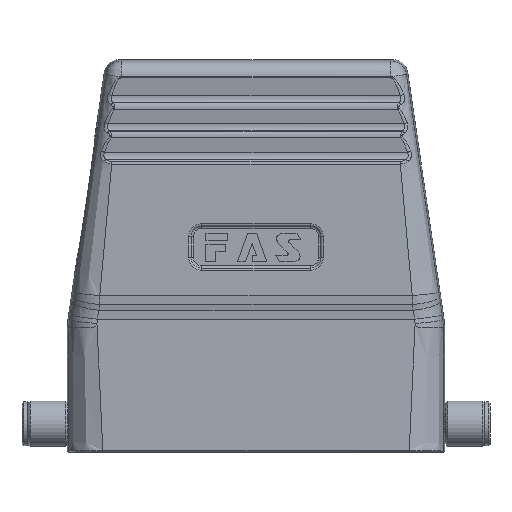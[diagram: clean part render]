
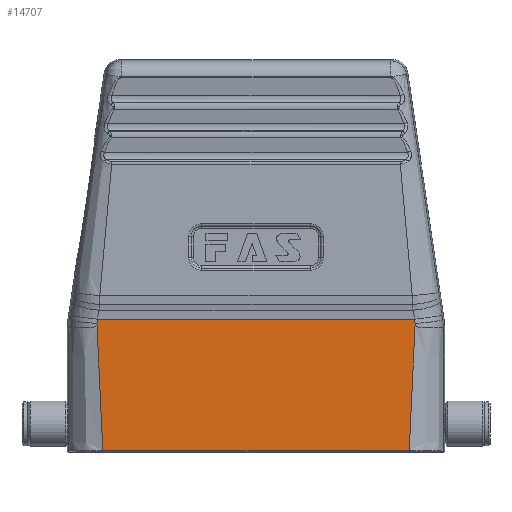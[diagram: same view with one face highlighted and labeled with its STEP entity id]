
A CAD part, top view. The second image highlights one B-rep face of the part: STEP entity #14707.
In plain terms, the highlighted planar face has unit normal (0, 0, 1).
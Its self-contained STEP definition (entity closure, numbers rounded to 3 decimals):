
#98 = CARTESIAN_POINT ( 'NONE',  ( 30.765, 51.846, 21.5 ) ) ;
#230 = FACE_OUTER_BOUND ( 'NONE', #4912, .T. ) ;
#684 = CARTESIAN_POINT ( 'NONE',  ( 30.366, 47.874, 21.5 ) ) ;
#744 = CARTESIAN_POINT ( 'NONE',  ( 30.779, 52.607, 21.5 ) ) ;
#876 = EDGE_CURVE ( 'NONE', #9287, #17643, #11985, .T. ) ;
#914 = CARTESIAN_POINT ( 'NONE',  ( 30.712, 53.234, 21.5 ) ) ;
#1014 = CARTESIAN_POINT ( 'NONE',  ( -29.839, 35.892, 21.5 ) ) ;
#1187 = CARTESIAN_POINT ( 'NONE',  ( 29.647, 27.898, 21.5 ) ) ;
#2148 = CARTESIAN_POINT ( 'NONE',  ( -30.765, 51.846, 21.5 ) ) ;
#2259 = PLANE ( 'NONE',  #20123 ) ;
#2491 = CARTESIAN_POINT ( 'NONE',  ( 29.647, 27.898, 21.5 ) ) ;
#2836 = CARTESIAN_POINT ( 'NONE',  ( -30.783, 52.517, 21.5 ) ) ;
#2842 = EDGE_CURVE ( 'NONE', #25320, #16825, #6450, .T. ) ;
#2975 = CARTESIAN_POINT ( 'NONE',  ( -30.142, 43.881, 21.5 ) ) ;
#3156 = EDGE_CURVE ( 'NONE', #8584, #9287, #8384, .T. ) ;
#3163 = CARTESIAN_POINT ( 'NONE',  ( 9.882, 27.898, 21.5 ) ) ;
#3537 = VERTEX_POINT ( 'NONE', #10385 ) ;
#3786 = CARTESIAN_POINT ( 'NONE',  ( 30.79, 52.292, 21.5 ) ) ;
#4230 = CARTESIAN_POINT ( 'NONE',  ( -30.702, 53.323, 21.5 ) ) ;
#4786 = CARTESIAN_POINT ( 'NONE',  ( -30.734, 53.055, 21.5 ) ) ;
#4912 = EDGE_LOOP ( 'NONE', ( #25142, #8812, #15916, #9839, #23778, #5516, #23771, #7599 ) ) ;
#5079 = DIRECTION ( 'NONE',  ( 1., 0., 0. ) ) ;
#5103 = CARTESIAN_POINT ( 'NONE',  ( -9.882, 27.898, 21.5 ) ) ;
#5516 = ORIENTED_EDGE ( 'NONE', *, *, #19938, .F. ) ;
#5615 = EDGE_CURVE ( 'NONE', #13027, #8584, #14170, .T. ) ;
#5893 = CARTESIAN_POINT ( 'NONE',  ( 30.772, 51.92, 21.5 ) ) ;
#6231 = CARTESIAN_POINT ( 'NONE',  ( 29.839, 35.892, 21.5 ) ) ;
#6262 = CARTESIAN_POINT ( 'NONE',  ( -32.019, 27.39, 21.5 ) ) ;
#6405 = VECTOR ( 'NONE', #5079, 1000. ) ;
#6450 =( BOUNDED_CURVE ( )  B_SPLINE_CURVE ( 3, ( #15876, #19556, #3786, #11853, #5893, #98 ),
 .UNSPECIFIED., .F., .F. ) 
 B_SPLINE_CURVE_WITH_KNOTS ( ( 4, 1, 1, 4 ),
 ( 0., 0.334, 0.667, 1. ),
 .UNSPECIFIED. ) 
 CURVE ( )  GEOMETRIC_REPRESENTATION_ITEM ( )  RATIONAL_B_SPLINE_CURVE ( ( 1.17, 1.17, 1.17, 1.17, 1.17, 1.17 ) ) 
 REPRESENTATION_ITEM ( '' )  );
#6569 = CARTESIAN_POINT ( 'NONE',  ( -29.647, 27.898, 21.5 ) ) ;
#6589 = EDGE_CURVE ( 'NONE', #17643, #17551, #15625, .T. ) ;
#6626 = CARTESIAN_POINT ( 'NONE',  ( -30.772, 51.92, 21.5 ) ) ;
#6774 = CARTESIAN_POINT ( 'NONE',  ( -30.702, 53.323, 21.5 ) ) ;
#7599 = ORIENTED_EDGE ( 'NONE', *, *, #2842, .F. ) ;
#8384 =( BOUNDED_CURVE ( )  B_SPLINE_CURVE ( 3, ( #20360, #6626, #10505, #12811, #12558, #14699 ),
 .UNSPECIFIED., .F., .F. ) 
 B_SPLINE_CURVE_WITH_KNOTS ( ( 4, 1, 1, 4 ),
 ( 0., 0.333, 0.666, 1. ),
 .UNSPECIFIED. ) 
 CURVE ( )  GEOMETRIC_REPRESENTATION_ITEM ( )  RATIONAL_B_SPLINE_CURVE ( ( 1.17, 1.17, 1.17, 1.17, 1.17, 1.17 ) ) 
 REPRESENTATION_ITEM ( '' )  );
#8509 = CARTESIAN_POINT ( 'NONE',  ( 30.142, 43.881, 21.5 ) ) ;
#8584 = VERTEX_POINT ( 'NONE', #2148 ) ;
#8812 = ORIENTED_EDGE ( 'NONE', *, *, #6589, .F. ) ;
#9287 = VERTEX_POINT ( 'NONE', #10488 ) ;
#9719 = EDGE_CURVE ( 'NONE', #16825, #3537, #12962, .T. ) ;
#9839 = ORIENTED_EDGE ( 'NONE', *, *, #3156, .F. ) ;
#10385 = CARTESIAN_POINT ( 'NONE',  ( 29.647, 27.898, 21.5 ) ) ;
#10488 = CARTESIAN_POINT ( 'NONE',  ( -30.783, 52.517, 21.5 ) ) ;
#10505 = CARTESIAN_POINT ( 'NONE',  ( -30.784, 52.068, 21.5 ) ) ;
#10524 = CARTESIAN_POINT ( 'NONE',  ( 30.734, 53.055, 21.5 ) ) ;
#10619 = CARTESIAN_POINT ( 'NONE',  ( -30.366, 47.874, 21.5 ) ) ;
#10747 = CARTESIAN_POINT ( 'NONE',  ( -30.779, 52.607, 21.5 ) ) ;
#11853 = CARTESIAN_POINT ( 'NONE',  ( 30.784, 52.068, 21.5 ) ) ;
#11985 =( BOUNDED_CURVE ( )  B_SPLINE_CURVE ( 3, ( #2836, #10747, #20506, #4786, #18463, #6774 ),
 .UNSPECIFIED., .F., .F. ) 
 B_SPLINE_CURVE_WITH_KNOTS ( ( 4, 1, 1, 4 ),
 ( 0., 0.333, 0.666, 1. ),
 .UNSPECIFIED. ) 
 CURVE ( )  GEOMETRIC_REPRESENTATION_ITEM ( )  RATIONAL_B_SPLINE_CURVE ( ( 1.17, 1.17, 1.17, 1.17, 1.17, 1.17 ) ) 
 REPRESENTATION_ITEM ( '' )  );
#12490 = CARTESIAN_POINT ( 'NONE',  ( 30.764, 52.787, 21.5 ) ) ;
#12558 = CARTESIAN_POINT ( 'NONE',  ( -30.786, 52.442, 21.5 ) ) ;
#12591 = CARTESIAN_POINT ( 'NONE',  ( -30.765, 51.846, 21.5 ) ) ;
#12811 = CARTESIAN_POINT ( 'NONE',  ( -30.79, 52.292, 21.5 ) ) ;
#12921 = CARTESIAN_POINT ( 'NONE',  ( 30.783, 52.517, 21.5 ) ) ;
#12962 = B_SPLINE_CURVE_WITH_KNOTS ( 'NONE', 3,
 ( #20322, #684, #8509, #6231, #16035, #2491 ),
 .UNSPECIFIED., .F., .F.,
 ( 4, 2, 4 ),
 ( 0., 0.5, 1. ),
 .UNSPECIFIED. ) ;
#13027 = VERTEX_POINT ( 'NONE', #24933 ) ;
#14170 = B_SPLINE_CURVE_WITH_KNOTS ( 'NONE', 3,
 ( #6569, #24501, #1014, #2975, #10619, #12591 ),
 .UNSPECIFIED., .F., .F.,
 ( 4, 2, 4 ),
 ( 0., 0.5, 1. ),
 .UNSPECIFIED. ) ;
#14440 = EDGE_CURVE ( 'NONE', #17551, #25320, #19589, .T. ) ;
#14699 = CARTESIAN_POINT ( 'NONE',  ( -30.783, 52.517, 21.5 ) ) ;
#14707 = ADVANCED_FACE ( 'NONE', ( #230 ), #2259, .F. ) ;
#15625 = LINE ( 'NONE', #16879, #6405 ) ;
#15876 = CARTESIAN_POINT ( 'NONE',  ( 30.783, 52.517, 21.5 ) ) ;
#15916 = ORIENTED_EDGE ( 'NONE', *, *, #876, .F. ) ;
#16035 = CARTESIAN_POINT ( 'NONE',  ( 29.76, 31.894, 21.5 ) ) ;
#16231 = DIRECTION ( 'NONE',  ( 0., 0., -1. ) ) ;
#16515 = CARTESIAN_POINT ( 'NONE',  ( 30.783, 52.517, 21.5 ) ) ;
#16825 = VERTEX_POINT ( 'NONE', #21795 ) ;
#16879 = CARTESIAN_POINT ( 'NONE',  ( -32.019, 53.323, 21.5 ) ) ;
#17551 = VERTEX_POINT ( 'NONE', #23607 ) ;
#17643 = VERTEX_POINT ( 'NONE', #4230 ) ;
#18033 = DIRECTION ( 'NONE',  ( -1., 0., 0. ) ) ;
#18239 = CARTESIAN_POINT ( 'NONE',  ( 30.702, 53.323, 21.5 ) ) ;
#18463 = CARTESIAN_POINT ( 'NONE',  ( -30.712, 53.234, 21.5 ) ) ;
#19556 = CARTESIAN_POINT ( 'NONE',  ( 30.786, 52.442, 21.5 ) ) ;
#19589 =( BOUNDED_CURVE ( )  B_SPLINE_CURVE ( 3, ( #18239, #914, #10524, #12490, #744, #16515 ),
 .UNSPECIFIED., .F., .F. ) 
 B_SPLINE_CURVE_WITH_KNOTS ( ( 4, 1, 1, 4 ),
 ( 0., 0.334, 0.667, 1. ),
 .UNSPECIFIED. ) 
 CURVE ( )  GEOMETRIC_REPRESENTATION_ITEM ( )  RATIONAL_B_SPLINE_CURVE ( ( 1.17, 1.17, 1.17, 1.17, 1.17, 1.17 ) ) 
 REPRESENTATION_ITEM ( '' )  );
#19938 = EDGE_CURVE ( 'NONE', #3537, #13027, #22429, .T. ) ;
#20123 = AXIS2_PLACEMENT_3D ( 'NONE', #6262, #16231, #18033 ) ;
#20322 = CARTESIAN_POINT ( 'NONE',  ( 30.765, 51.846, 21.5 ) ) ;
#20360 = CARTESIAN_POINT ( 'NONE',  ( -30.765, 51.846, 21.5 ) ) ;
#20506 = CARTESIAN_POINT ( 'NONE',  ( -30.764, 52.787, 21.5 ) ) ;
#21073 = CARTESIAN_POINT ( 'NONE',  ( -29.647, 27.898, 21.5 ) ) ;
#21795 = CARTESIAN_POINT ( 'NONE',  ( 30.765, 51.846, 21.5 ) ) ;
#22429 = B_SPLINE_CURVE_WITH_KNOTS ( 'NONE', 3,
 ( #1187, #3163, #5103, #21073 ),
 .UNSPECIFIED., .F., .F.,
 ( 4, 4 ),
 ( 0., 1. ),
 .UNSPECIFIED. ) ;
#23607 = CARTESIAN_POINT ( 'NONE',  ( 30.702, 53.323, 21.5 ) ) ;
#23771 = ORIENTED_EDGE ( 'NONE', *, *, #9719, .F. ) ;
#23778 = ORIENTED_EDGE ( 'NONE', *, *, #5615, .F. ) ;
#24501 = CARTESIAN_POINT ( 'NONE',  ( -29.76, 31.894, 21.5 ) ) ;
#24933 = CARTESIAN_POINT ( 'NONE',  ( -29.647, 27.898, 21.5 ) ) ;
#25142 = ORIENTED_EDGE ( 'NONE', *, *, #14440, .F. ) ;
#25320 = VERTEX_POINT ( 'NONE', #12921 ) ;
